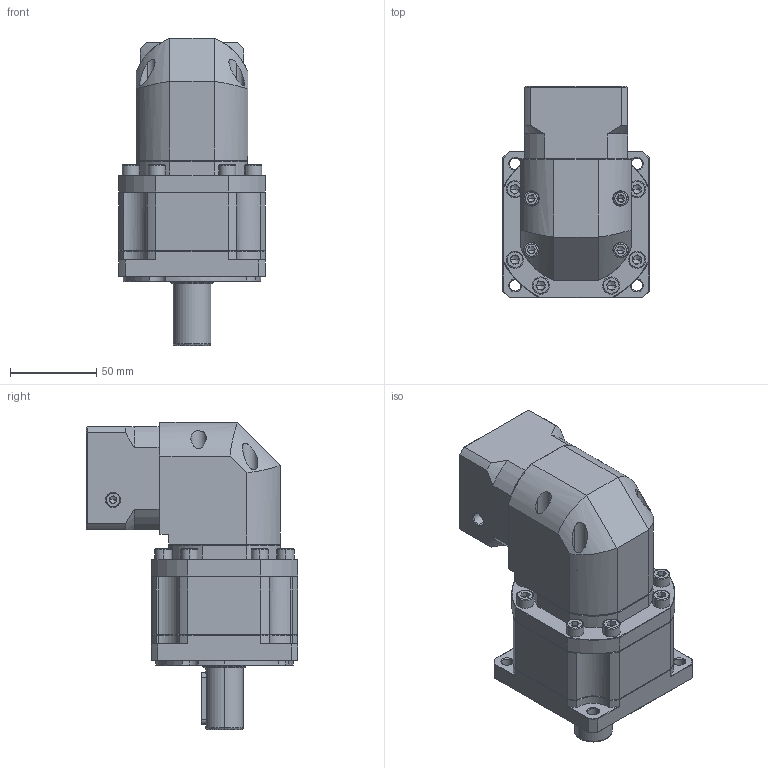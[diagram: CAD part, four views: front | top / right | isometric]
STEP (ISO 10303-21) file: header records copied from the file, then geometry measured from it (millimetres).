
FILE_DESCRIPTION (( 'STEP AP214' ), '1' );
FILE_NAME ('ZBR090-D22-L2-P2-6.35-38.1-47.14x47.14-M4.step', '2023-08-19T03:58:41', ( '' ), ( '' ), 'SwSTEP 2.0', 'SolidWorks 2016', '' );
FILE_SCHEMA (( 'AUTOMOTIVE_DESIGN' ));
Length unit declared in the file: millimetre
Products named in the file (1): ZBR090-D22-L2-P2-6.35-38.1-47.14x47.14-M4
Bounding box: 85 x 122.7 x 178.5 mm (x, y, z)
Volume: 807273 mm3; surface area: 100936.8 mm2
Topology: 5 solids, 5 shells, 2433 faces, 6439 edges, 4109 vertices
Faces by surface type: plane 1179, cylinder 439, bspline 438, cone 369, torus 8
Entity records: 127678 total; most frequent: CARTESIAN_POINT 44039, ORIENTED_EDGE 12786, DIRECTION 10254, EDGE_CURVE 6393, VERTEX_POINT 4109, LINE 4016, VECTOR 4016, AXIS2_PLACEMENT_3D 3119
